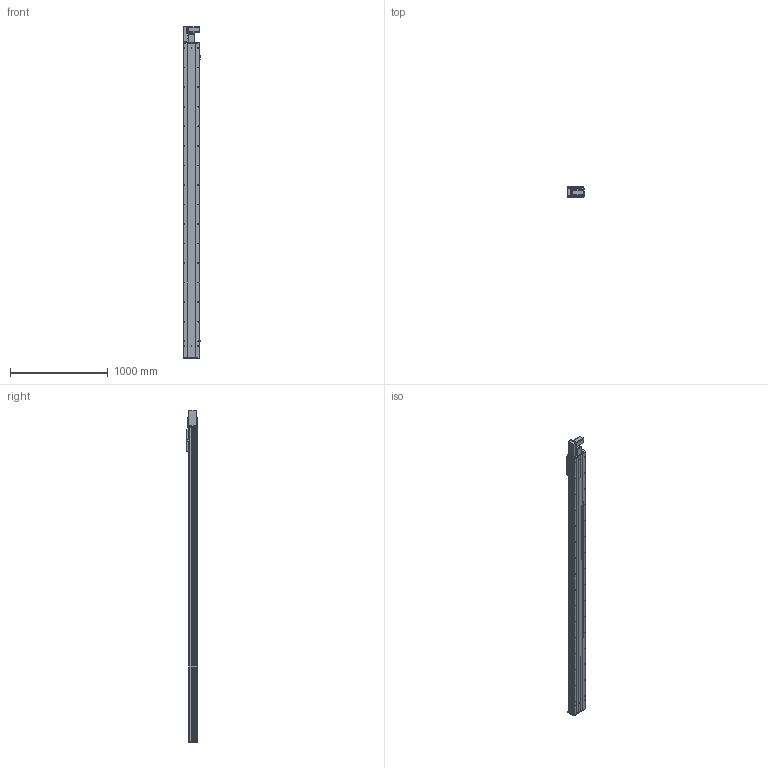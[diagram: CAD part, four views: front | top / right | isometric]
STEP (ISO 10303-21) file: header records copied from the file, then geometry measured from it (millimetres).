
FILE_DESCRIPTION (( 'STEP AP203' ), '1' );
FILE_NAME ('Y170CB-D105-S2900-BL-P400W.STEP', '2020-02-20T01:55:35', ( '微软用户' ), ( '微软中国' ), 'SwSTEP 2.0', 'SolidWorks 2017', '' );
FILE_SCHEMA (( 'CONFIG_CONTROL_DESIGN' ));
Length unit declared in the file: millimetre
Products named in the file (18): Y170CB-陔俋离換覜結え---; 0C--雄赽釱俋欶-170; san松下电机400不带刹车----; 70B喘謫眊----; 70CB-詩湍--; Y70俋欶BR----; Y1埴倛裔; Y100-135俋离換覜ん--; 70CB-掛极-; Y170CB-D105-S2900-BL-P400W; --70CB --喘謫眊楊擘啣-; 70CB-耜裔啣-; 70C--詩湍揤踡え-; B-源倛裔啣; 70CB--耜裔; 17B-耜蚾蟀諉啣----; 70C-雄赽釱-奻-; 0B-萇儂楊擘啣
Assembly tree (21 placements, depth 2):
  Y170CB-D105-S2900-BL-P400W
    B-源倛裔啣
    17B-耜蚾蟀諉啣----
    0B-萇儂楊擘啣
    san松下电机400不带刹车----
    Y70俋欶BR----
    70CB-掛极-
    --70CB --喘謫眊楊擘啣-
    70CB-耜裔啣-  x2
    70C--詩湍揤踡え-  x2
    70CB--耜裔
    70C-雄赽釱-奻-
    0C--雄赽釱俋欶-170
    70CB-詩湍--
    Y100-135俋离換覜ん--  x3
    Y170CB-陔俋离換覜結え---
    70B喘謫眊----
    Y1埴倛裔
Bounding box: 183.5 x 107 x 3397 mm (x, y, z)
Volume: 14017928.4 mm3; surface area: 5065287.3 mm2
Topology: 21 solids, 21 shells, 1087 faces, 2933 edges, 1946 vertices
Faces by surface type: cylinder 599, plane 464, cone 24
Entity records: 34948 total; most frequent: CARTESIAN_POINT 6456, DIRECTION 5686, ORIENTED_EDGE 5348, EDGE_CURVE 2674, AXIS2_PLACEMENT_3D 2104, VERTEX_POINT 1776, LINE 1478, VECTOR 1478
